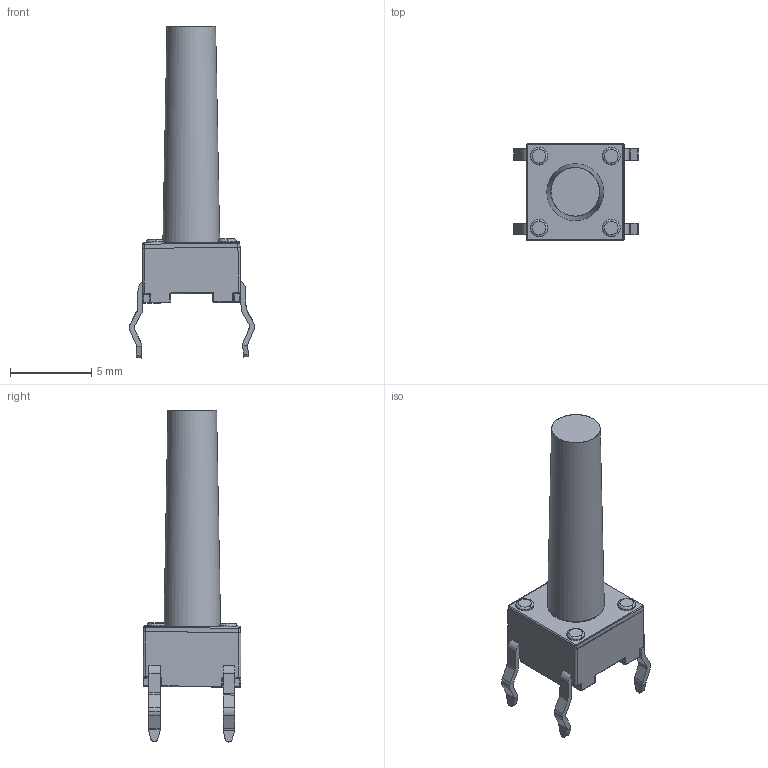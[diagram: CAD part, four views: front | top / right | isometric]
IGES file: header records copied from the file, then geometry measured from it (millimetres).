
Global section: file name: Filename.iges; native system: Open CASCADE 7.3; preprocessor: Open CASCADE IGES processor 7.3; date: 20210813.151621; units: millimetre
Bounding box: 7.69 x 6.03 x 20.44 mm (x, y, z)
Surface area: 353.5 mm2 (no closed solid volume)
Topology: 0 solids, 0 shells, 294 faces, 1410 edges, 1382 vertices
Faces by surface type: revolution 204, plane 90
